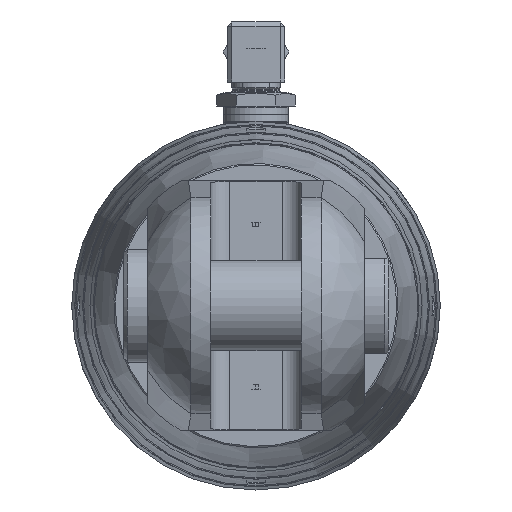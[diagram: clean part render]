
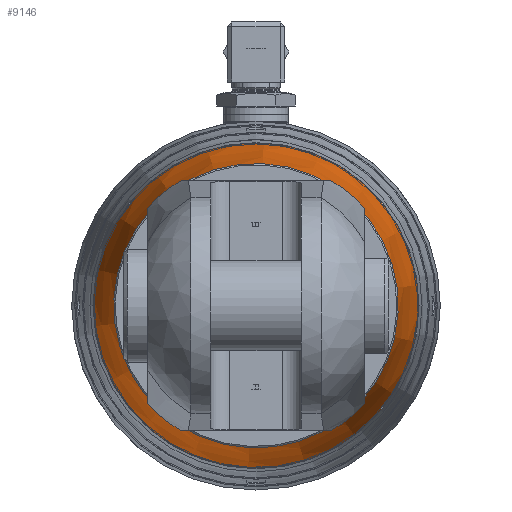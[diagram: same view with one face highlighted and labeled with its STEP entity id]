
A CAD part, left-side view. The second image highlights one B-rep face of the part: STEP entity #9146.
In plain terms, the highlighted conical face has half-angle 10 degrees and reference radius 64.279 mm.
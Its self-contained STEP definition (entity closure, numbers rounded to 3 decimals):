
#149=CONICAL_SURFACE('',#10112,64.279,0.175);
#897=LINE('',#16600,#1477);
#1477=VECTOR('',#12573,64.279);
#2823=FACE_OUTER_BOUND('',#3371,.T.);
#3371=EDGE_LOOP('',(#8506,#8507,#8508,#8509,#8510,#8511));
#3814=CIRCLE('',#10110,68.601);
#3815=CIRCLE('',#10111,68.601);
#3816=CIRCLE('',#10113,59.958);
#3817=CIRCLE('',#10114,59.958);
#4708=VERTEX_POINT('',#16590);
#4709=VERTEX_POINT('',#16591);
#4710=VERTEX_POINT('',#16596);
#4711=VERTEX_POINT('',#16597);
#5980=EDGE_CURVE('',#4708,#4709,#3814,.T.);
#5981=EDGE_CURVE('',#4709,#4708,#3815,.T.);
#5983=EDGE_CURVE('',#4710,#4711,#3816,.T.);
#5984=EDGE_CURVE('',#4711,#4710,#3817,.T.);
#5985=EDGE_CURVE('',#4711,#4709,#897,.T.);
#8506=ORIENTED_EDGE('',*,*,#5983,.F.);
#8507=ORIENTED_EDGE('',*,*,#5984,.F.);
#8508=ORIENTED_EDGE('',*,*,#5985,.T.);
#8509=ORIENTED_EDGE('',*,*,#5980,.F.);
#8510=ORIENTED_EDGE('',*,*,#5981,.F.);
#8511=ORIENTED_EDGE('',*,*,#5985,.F.);
#9146=ADVANCED_FACE('',(#2823),#149,.T.);
#10110=AXIS2_PLACEMENT_3D('',#16592,#12562,#12563);
#10111=AXIS2_PLACEMENT_3D('',#16593,#12564,#12565);
#10112=AXIS2_PLACEMENT_3D('',#16595,#12567,#12568);
#10113=AXIS2_PLACEMENT_3D('',#16598,#12569,#12570);
#10114=AXIS2_PLACEMENT_3D('',#16599,#12571,#12572);
#12562=DIRECTION('center_axis',(1.,0.,0.));
#12563=DIRECTION('ref_axis',(0.,0.605,0.796));
#12564=DIRECTION('center_axis',(1.,0.,0.));
#12565=DIRECTION('ref_axis',(0.,0.605,0.796));
#12567=DIRECTION('center_axis',(1.,0.,0.));
#12568=DIRECTION('ref_axis',(0.,-0.605,-0.796));
#12569=DIRECTION('center_axis',(-1.,0.,0.));
#12570=DIRECTION('ref_axis',(0.,0.605,0.796));
#12571=DIRECTION('center_axis',(-1.,0.,0.));
#12572=DIRECTION('ref_axis',(0.,0.605,0.796));
#12573=DIRECTION('',(0.985,0.105,0.138));
#16590=CARTESIAN_POINT('',(-1767.942,-41.528,-54.603));
#16591=CARTESIAN_POINT('',(-1767.942,41.528,54.603));
#16592=CARTESIAN_POINT('Origin',(-1767.942,0.,
0.));
#16593=CARTESIAN_POINT('Origin',(-1767.942,0.,
0.));
#16595=CARTESIAN_POINT('Origin',(-1792.45,0.,0.));
#16596=CARTESIAN_POINT('',(-1816.958,-36.296,-47.724));
#16597=CARTESIAN_POINT('',(-1816.958,36.296,47.724));
#16598=CARTESIAN_POINT('Origin',(-1816.958,0.,
0.));
#16599=CARTESIAN_POINT('Origin',(-1816.958,0.,
0.));
#16600=CARTESIAN_POINT('',(-1792.45,38.912,51.164));
